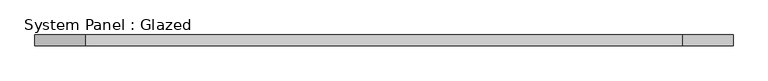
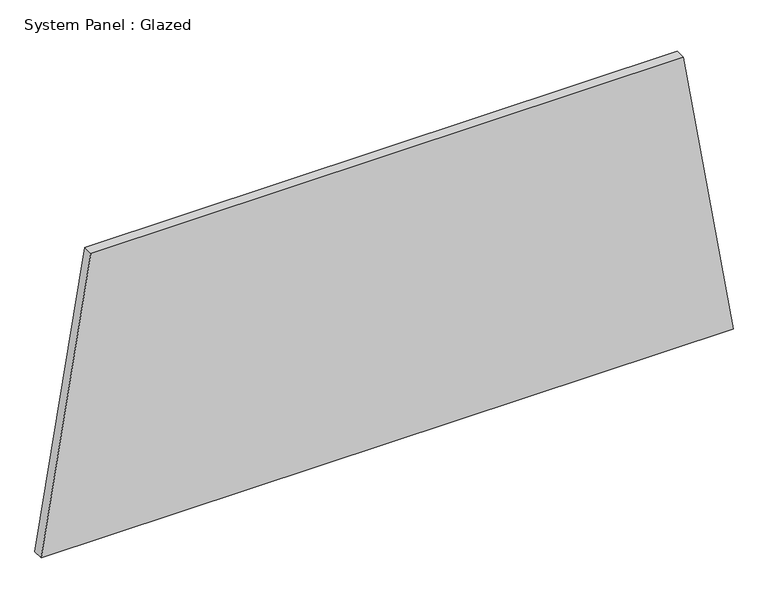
"""IFC4 building model written with IfcOpenShell, lengths in millimetres: plate geometry, System Panel : Glazed."""

from ifc_helpers import new_model, si_unit, frame, origin, place, context, project, spatial, polyline, outline, extrude, source, transform, mapped, element, save


def system_panel_glazed_a1e2ecf7(model_context):
    return source(origin(), model_context, "Body", "SweptSolid", [
        extrude(outline(polyline([(0.0, -825.0097424), (0.0, 825.0097424), (726.6823754, 706.6080798), (726.6823754, -706.6080798), (0.0, -825.0097424)])), frame((0.0, 19.05, 0.0), z_axis=(0.0, 1.0, 0.0), x_axis=(0.0, 0.0, 1.0)), (0.0, 0.0, 1.0), 25.4),
    ])


if __name__ == "__main__":
    model = new_model("IFC4")
    model_context = context("Model", 3, world=origin())
    ifc_project = project(units=[si_unit("LENGTHUNIT", "METRE", prefix="MILLI")], contexts=[model_context])
    site = spatial("IfcSite", under=ifc_project)
    building = spatial("IfcBuilding", under=site)
    placement = place(None, origin())
    system_panel_glazed_shape = system_panel_glazed_a1e2ecf7(model_context)
    element("IfcPlate", 1, ObjectType="System Panel : Glazed", at=placement, inside=building, context=model_context, shape_type="MappedRepresentation", body=[
        mapped(system_panel_glazed_shape, transform((0.0, 0.0, 0.0), x_axis=(1.0, 0.0, 0.0), y_axis=(0.0, 1.0, 0.0), z_axis=(0.0, 0.0, 1.0))),
    ])
    save(model, "model.ifc")
